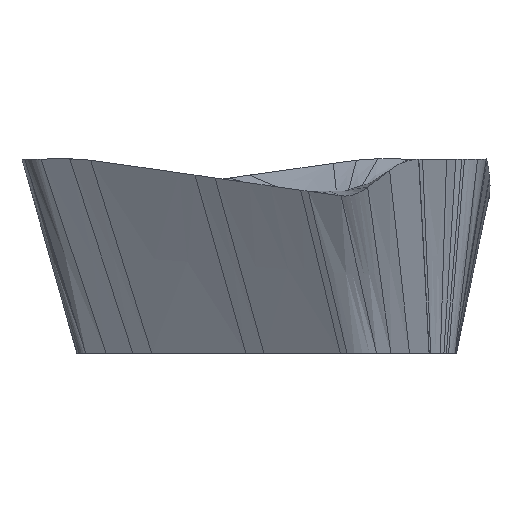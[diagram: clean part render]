
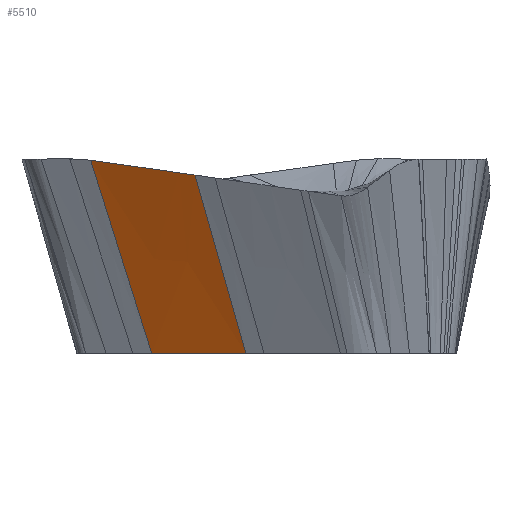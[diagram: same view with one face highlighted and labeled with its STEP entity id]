
A CAD part, left-side view. The second image highlights one B-rep face of the part: STEP entity #5510.
In plain terms, the highlighted free-form (B-spline) face has degree [5, 3] with [9, 4] control points.
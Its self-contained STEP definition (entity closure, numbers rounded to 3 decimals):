
#1269=CARTESIAN_POINT('Vertex',(-2.725,1.381,0.)) ;
#1272=CARTESIAN_POINT('Line Origine',(-2.146,2.374,0.)) ;
#1276=CARTESIAN_POINT('Vertex',(-1.567,3.368,0.)) ;
#5418=CARTESIAN_POINT('Vertex',(-2.923,2.455,3.759)) ;
#5422=CARTESIAN_POINT('Control Point',(-2.923,2.455,3.759)) ;
#5423=CARTESIAN_POINT('Control Point',(-2.903,2.348,3.383)) ;
#5424=CARTESIAN_POINT('Control Point',(-2.883,2.24,3.007)) ;
#5425=CARTESIAN_POINT('Control Point',(-2.864,2.133,2.631)) ;
#5426=CARTESIAN_POINT('Control Point',(-2.824,1.918,1.88)) ;
#5427=CARTESIAN_POINT('Control Point',(-2.785,1.703,1.128)) ;
#5428=CARTESIAN_POINT('Control Point',(-2.765,1.596,0.752)) ;
#5429=CARTESIAN_POINT('Control Point',(-2.745,1.489,0.376)) ;
#5430=CARTESIAN_POINT('Control Point',(-2.725,1.381,0.)) ;
#5440=CARTESIAN_POINT('Control Point',(-1.591,4.658,4.075)) ;
#5441=CARTESIAN_POINT('Control Point',(-2.041,3.927,3.97)) ;
#5442=CARTESIAN_POINT('Control Point',(-2.485,3.193,3.865)) ;
#5443=CARTESIAN_POINT('Control Point',(-2.923,2.455,3.759)) ;
#5444=CARTESIAN_POINT('Control Point',(-1.589,4.529,3.668)) ;
#5445=CARTESIAN_POINT('Control Point',(-2.032,3.805,3.573)) ;
#5446=CARTESIAN_POINT('Control Point',(-2.47,3.078,3.478)) ;
#5447=CARTESIAN_POINT('Control Point',(-2.903,2.348,3.383)) ;
#5448=CARTESIAN_POINT('Control Point',(-1.586,4.4,3.26)) ;
#5449=CARTESIAN_POINT('Control Point',(-2.023,3.683,3.176)) ;
#5450=CARTESIAN_POINT('Control Point',(-2.456,2.963,3.092)) ;
#5451=CARTESIAN_POINT('Control Point',(-2.883,2.24,3.007)) ;
#5452=CARTESIAN_POINT('Control Point',(-1.584,4.271,2.853)) ;
#5453=CARTESIAN_POINT('Control Point',(-2.015,3.561,2.779)) ;
#5454=CARTESIAN_POINT('Control Point',(-2.441,2.848,2.705)) ;
#5455=CARTESIAN_POINT('Control Point',(-2.864,2.133,2.631)) ;
#5456=CARTESIAN_POINT('Control Point',(-1.579,4.013,2.038)) ;
#5457=CARTESIAN_POINT('Control Point',(-1.997,3.316,1.985)) ;
#5458=CARTESIAN_POINT('Control Point',(-2.412,2.618,1.932)) ;
#5459=CARTESIAN_POINT('Control Point',(-2.824,1.918,1.88)) ;
#5460=CARTESIAN_POINT('Control Point',(-1.574,3.755,1.222)) ;
#5461=CARTESIAN_POINT('Control Point',(-1.98,3.072,1.191)) ;
#5462=CARTESIAN_POINT('Control Point',(-2.383,2.388,1.159)) ;
#5463=CARTESIAN_POINT('Control Point',(-2.785,1.703,1.128)) ;
#5464=CARTESIAN_POINT('Control Point',(-1.572,3.626,0.815)) ;
#5465=CARTESIAN_POINT('Control Point',(-1.971,2.95,0.794)) ;
#5466=CARTESIAN_POINT('Control Point',(-2.368,2.273,0.773)) ;
#5467=CARTESIAN_POINT('Control Point',(-2.765,1.596,0.752)) ;
#5468=CARTESIAN_POINT('Control Point',(-1.569,3.497,0.407)) ;
#5469=CARTESIAN_POINT('Control Point',(-1.962,2.828,0.397)) ;
#5470=CARTESIAN_POINT('Control Point',(-2.354,2.158,0.386)) ;
#5471=CARTESIAN_POINT('Control Point',(-2.745,1.489,0.376)) ;
#5472=CARTESIAN_POINT('Control Point',(-1.567,3.368,0.)) ;
#5473=CARTESIAN_POINT('Control Point',(-1.953,2.706,0.)) ;
#5474=CARTESIAN_POINT('Control Point',(-2.339,2.043,0.)) ;
#5475=CARTESIAN_POINT('Control Point',(-2.725,1.381,0.)) ;
#5477=CARTESIAN_POINT('Control Point',(-2.724,2.789,3.807)) ;
#5478=CARTESIAN_POINT('Control Point',(-2.791,2.678,3.791)) ;
#5479=CARTESIAN_POINT('Control Point',(-2.857,2.566,3.775)) ;
#5480=CARTESIAN_POINT('Control Point',(-2.923,2.455,3.759)) ;
#5481=CARTESIAN_POINT('Vertex',(-2.724,2.789,3.807)) ;
#5485=CARTESIAN_POINT('Control Point',(-1.591,4.658,4.075)) ;
#5486=CARTESIAN_POINT('Control Point',(-1.973,4.037,3.986)) ;
#5487=CARTESIAN_POINT('Control Point',(-2.351,3.414,3.896)) ;
#5488=CARTESIAN_POINT('Control Point',(-2.724,2.789,3.807)) ;
#5489=CARTESIAN_POINT('Vertex',(-1.591,4.658,4.075)) ;
#5493=CARTESIAN_POINT('Control Point',(-1.591,4.658,4.075)) ;
#5494=CARTESIAN_POINT('Control Point',(-1.589,4.529,3.668)) ;
#5495=CARTESIAN_POINT('Control Point',(-1.586,4.4,3.26)) ;
#5496=CARTESIAN_POINT('Control Point',(-1.584,4.271,2.853)) ;
#5497=CARTESIAN_POINT('Control Point',(-1.579,4.013,2.038)) ;
#5498=CARTESIAN_POINT('Control Point',(-1.574,3.755,1.222)) ;
#5499=CARTESIAN_POINT('Control Point',(-1.572,3.626,0.815)) ;
#5500=CARTESIAN_POINT('Control Point',(-1.569,3.497,0.407)) ;
#5501=CARTESIAN_POINT('Control Point',(-1.567,3.368,0.)) ;
#1273=DIRECTION('Vector Direction',(-0.504,-0.864,0.)) ;
#1274=VECTOR('Line Direction',#1273,1.) ;
#5504=ORIENTED_EDGE('',*,*,#1278,.F.) ;
#5505=ORIENTED_EDGE('',*,*,#5431,.F.) ;
#5506=ORIENTED_EDGE('',*,*,#5483,.T.) ;
#5507=ORIENTED_EDGE('',*,*,#5491,.T.) ;
#5508=ORIENTED_EDGE('',*,*,#5502,.T.) ;
#5510=ADVANCED_FACE('CUT',(#5509),#5439,.T.) ;
#5421=B_SPLINE_CURVE_WITH_KNOTS('',5,(#5422,#5423,#5424,#5425,#5426,#5427,#5428,#5429,#5430),.UNSPECIFIED.,.F.,.U.,(6,3,6),(0.,1.94,3.88),.UNSPECIFIED.) ;
#5476=B_SPLINE_CURVE_WITH_KNOTS('',3,(#5477,#5478,#5479,#5480),.UNSPECIFIED.,.F.,.U.,(4,4),(2.075,2.444),.UNSPECIFIED.) ;
#5484=B_SPLINE_CURVE_WITH_KNOTS('',3,(#5485,#5486,#5487,#5488),.UNSPECIFIED.,.F.,.U.,(4,4),(0.,2.075),.UNSPECIFIED.) ;
#5492=B_SPLINE_CURVE_WITH_KNOTS('',5,(#5493,#5494,#5495,#5496,#5497,#5498,#5499,#5500,#5501),.UNSPECIFIED.,.F.,.U.,(6,3,6),(0.,2.047,4.095),.UNSPECIFIED.) ;
#5439=B_SPLINE_SURFACE_WITH_KNOTS('',5,3,((#5440,#5441,#5442,#5443),(#5444,#5445,#5446,#5447),(#5448,#5449,#5450,#5451),(#5452,#5453,#5454,#5455),(#5456,#5457,#5458,#5459),(#5460,#5461,#5462,#5463),(#5464,#5465,#5466,#5467),(#5468,#5469,#5470,#5471),(#5472,#5473,#5474,#5475)),.UNSPECIFIED.,.F.,.F.,.U.,(6,3,6),(4,4),(0.,2.047,4.095),(0.,2.444),.UNSPECIFIED.) ;
#1278=EDGE_CURVE('',#1270,#1277,#1275,.F.) ;
#5431=EDGE_CURVE('',#5419,#1270,#5421,.T.) ;
#5483=EDGE_CURVE('',#5419,#5482,#5476,.F.) ;
#5491=EDGE_CURVE('',#5482,#5490,#5484,.F.) ;
#5502=EDGE_CURVE('',#5490,#1277,#5492,.T.) ;
#5503=EDGE_LOOP('',(#5504,#5505,#5506,#5507,#5508)) ;
#5509=FACE_OUTER_BOUND('',#5503,.T.) ;
#1275=LINE('Line',#1272,#1274) ;
#1270=VERTEX_POINT('',#1269) ;
#1277=VERTEX_POINT('',#1276) ;
#5419=VERTEX_POINT('',#5418) ;
#5482=VERTEX_POINT('',#5481) ;
#5490=VERTEX_POINT('',#5489) ;
